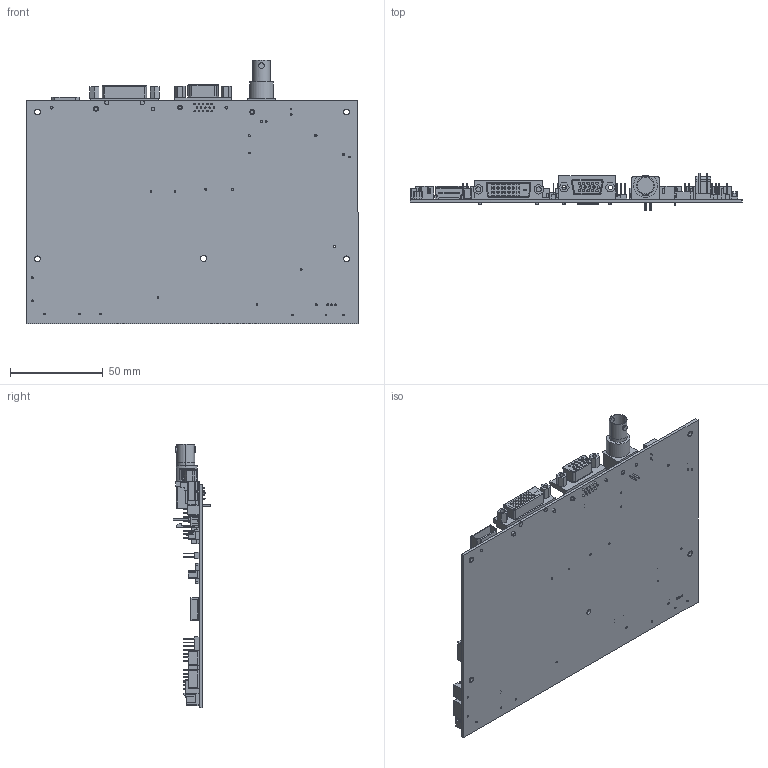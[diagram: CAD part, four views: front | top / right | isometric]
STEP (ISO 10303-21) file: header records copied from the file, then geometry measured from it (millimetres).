
FILE_DESCRIPTION (( 'STEP AP203' ), '1' );
FILE_NAME ('Assy PCB SP-1920 417600011-3 171212.STEP', '2017-12-13T01:57:52', ( '' ), ( '' ), 'SwSTEP 2.0', 'SolidWorks 2017', '' );
FILE_SCHEMA (( 'CONFIG_CONTROL_DESIGN' ));
Length unit declared in the file: inch
Products named in the file (30): 210018005-3 PH Conn 2.0-F-05p; 210010005-3 2.5-F-05p; 210061112-3 1.25-F-12P; Assy PCB SP-1920 417600011-3 171212; 215090251-3 LVDS 51 pin; 210006020-3 Header 20P Horiz; PCB SP-1920 417600011-3; 210021402-3 Header_2.0_2x1; 210018003-3 PH Conn 2.0-F-03p; 210018004-3 PH Conn 2.0-F-04p; 210082402-3 Header 2P Vert; 210082604-3 Power Plug 2x2; 210010004-3 2.5-F-04p; 210010002-3 2.5-F-02p; 210034110-3 Header_2.0_2x5; 212030101-3 BNC Horiz; 190010805-3 DIP Switch 8P Horz; 210034104-3 Header_2.0_2x2; 210018006-3 PH Conn 2.0-F-06p; 210034106-3 Header_2.0_2x3; 210021403-3 Header_2.0_3X1; 210010003-3 2.5-F-03p; 210034108-3 Header_2.0_2x4; 210082102-3 Hdr 2P Vert Lkg; 210010006-3 2.5-F-06p; 212200190-3 HDMI; 190010605-3 DIP Switch 6P Horz; 210202815-3 VGA Port Horiz; 210065212-3 Header 12P Horiz; 210084030-3 DVI-pcbJack
Assembly tree (48 placements, depth 2):
  Assy PCB SP-1920 417600011-3 171212
    PCB SP-1920 417600011-3
    190010605-3 DIP Switch 6P Horz
    190010805-3 DIP Switch 8P Horz
    210082102-3 Hdr 2P Vert Lkg
    210082604-3 Power Plug 2x2
    210084030-3 DVI-pcbJack
    212200190-3 HDMI
    215090251-3 LVDS 51 pin
    210006020-3 Header 20P Horiz  x3
    210010002-3 2.5-F-02p
    210010003-3 2.5-F-03p  x2
    210010004-3 2.5-F-04p
    210010005-3 2.5-F-05p
    210010006-3 2.5-F-06p
    210018003-3 PH Conn 2.0-F-03p
    210018005-3 PH Conn 2.0-F-05p
    210018006-3 PH Conn 2.0-F-06p
    210018004-3 PH Conn 2.0-F-04p  x4
    210021402-3 Header_2.0_2x1  x10
    210021403-3 Header_2.0_3X1  x4
    210034104-3 Header_2.0_2x2
    210034106-3 Header_2.0_2x3  x2
    210034108-3 Header_2.0_2x4
    210034110-3 Header_2.0_2x5
    210061112-3 1.25-F-12P
    210065212-3 Header 12P Horiz
    210082402-3 Header 2P Vert
    210202815-3 VGA Port Horiz
    212030101-3 BNC Horiz
Bounding box: 179.07 x 20.4 x 142.3 mm (x, y, z)
Volume: 49365.3 mm3; surface area: 67572.5 mm2
Topology: 108 solids, 108 shells, 3536 faces, 8433 edges, 5512 vertices
Faces by surface type: plane 2995, cylinder 523, torus 14, sphere 4
Entity records: 66489 total; most frequent: CARTESIAN_POINT 11001, ORIENTED_EDGE 10458, DIRECTION 10399, EDGE_CURVE 5229, LINE 4491, VECTOR 4491, VERTEX_POINT 3432, AXIS2_PLACEMENT_3D 2954
